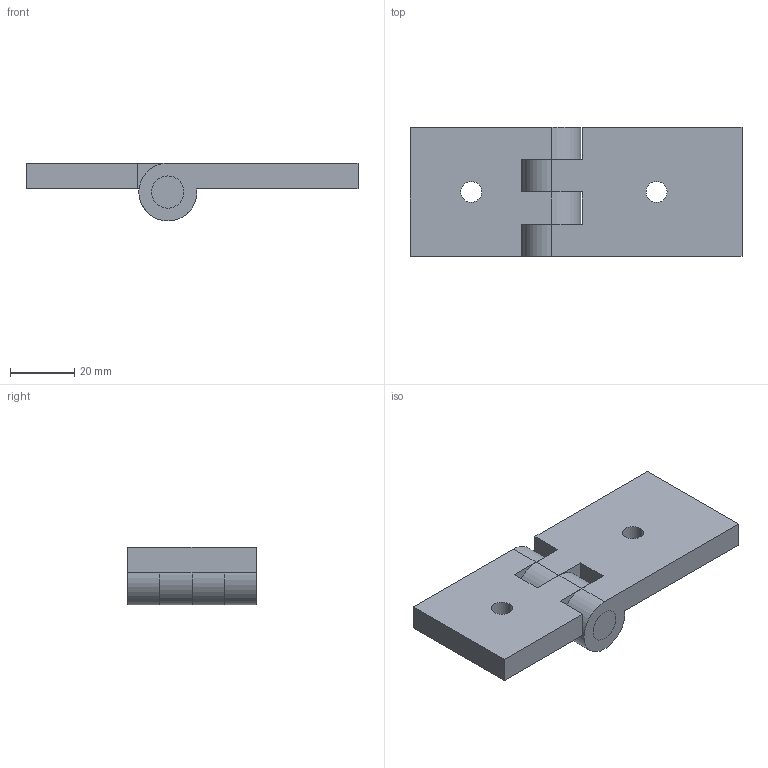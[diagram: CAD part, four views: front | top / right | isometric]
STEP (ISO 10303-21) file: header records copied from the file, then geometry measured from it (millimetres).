
FILE_DESCRIPTION((''),'2;1');
FILE_NAME('CE4560_ASM','2002-12-27T',('Lipro doo'),('Lipro d.o.o.'),'PRO/ENGINEER BY PARAMETRIC TECHNOLOGY CORPORATION, 2001150','PRO/ENGINEER BY PARAMETRIC TECHNOLOGY CORPORATION, 2001150','');
FILE_SCHEMA(('CONFIG_CONTROL_DESIGN'));
Length unit declared in the file: millimetre
Products named in the file (4): OS_FI10X40; CE45_1; CE60_1; CE4560_ASM
Assembly tree (3 placements, depth 2):
  CE4560_ASM
    OS_FI10X40
    CE45_1
    CE60_1
Bounding box: 103 x 40 x 17.99 mm (x, y, z)
Volume: 37042.5 mm3; surface area: 15553.6 mm2
Topology: 3 solids, 3 shells, 44 faces, 110 edges, 72 vertices
Faces by surface type: plane 22, cylinder 18, cone 4
Entity records: 1462 total; most frequent: DIRECTION 252, CARTESIAN_POINT 233, ORIENTED_EDGE 220, EDGE_CURVE 110, AXIS2_PLACEMENT_3D 91, VERTEX_POINT 72, VECTOR 70, LINE 70
